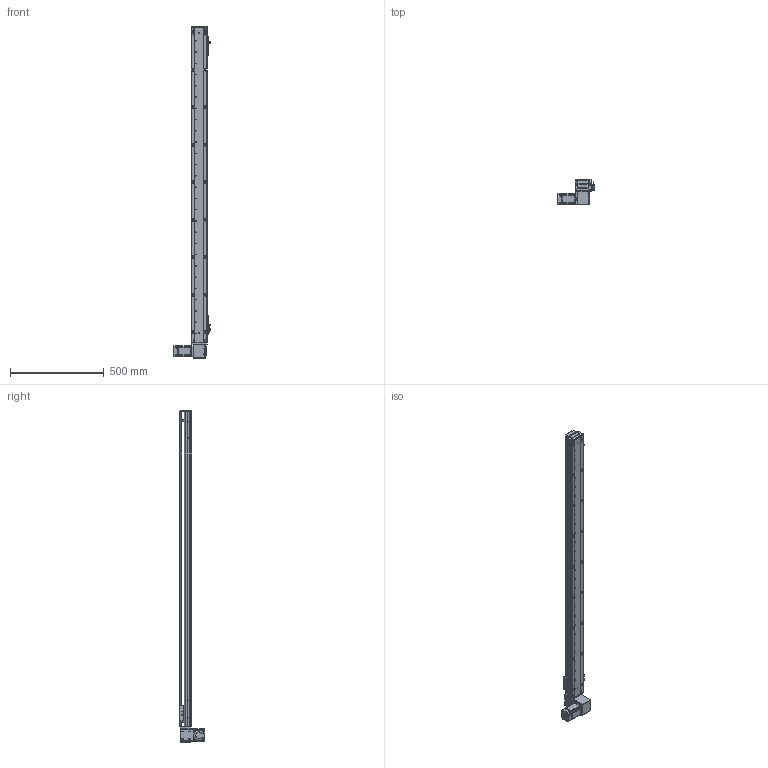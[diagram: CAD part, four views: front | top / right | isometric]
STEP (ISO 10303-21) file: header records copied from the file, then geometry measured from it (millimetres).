
FILE_DESCRIPTION (( 'STEP AP203' ), '1' );
FILE_NAME ('RY80-T-300-DL.SLDASM_1500.step', '2021-03-01T01:39:17', ( '盈信电脑' ), ( '东莞市道滘镇水果街19号' ), 'SwSTEP 2.0', 'SolidWorks 2012', '' );
FILE_SCHEMA (( 'CONFIG_CONTROL_DESIGN' ));
Length unit declared in the file: millimetre
Products named in the file (19): RY80-T-300-DL.SLDASM_1500; RY80-T-上下折同步轮盖板; RY80-T-M4蹟翐3; RY100-T粣創揤踡裔; RY80-T肮祭謫狟殏俋欶; 1; 滅袉蝶18-10; RY80-T翋肮祭謫裔啣; RY80-T萇儂假蚾啣; RY80-T肮祭湍揤輸1; RY80-T-翋肮祭謫釱; RY80-T肮祭湍揤輸2; 覜茼ん672; RY80俋离覜茼え; RY80-T綴裔啣; 672嫖萇羲壽假蚾釱; RY80-T-300-DL倰第菁釱_1500; RY80-T肮祭謫臏賑輸; RY80-T-300-DL倰第奻裔啣_1500
Assembly tree (24 placements, depth 2):
  RY80-T-300-DL.SLDASM_1500
    RY80-T-300-DL倰第菁釱_1500
    RY80-T肮祭謫臏賑輸
    RY80-T-300-DL倰第奻裔啣_1500
    RY80-T綴裔啣
    672嫖萇羲壽假蚾釱  x2
    覜茼ん672  x3
    RY80俋离覜茼え
    RY80-T-翋肮祭謫釱
    RY80-T肮祭湍揤輸1
    RY80-T肮祭湍揤輸2
    RY80-T萇儂假蚾啣
    RY80-T翋肮祭謫裔啣  x2
    滅袉蝶18-10  x2
    1
    RY80-T肮祭謫狟殏俋欶
    RY80-T-M4蹟翐3  x2
    RY80-T-上下折同步轮盖板
    RY100-T粣創揤踡裔
Bounding box: 198.7 x 134.5 x 1770 mm (x, y, z)
Volume: 2834479.2 mm3; surface area: 1213320.9 mm2
Topology: 24 solids, 24 shells, 2585 faces, 7147 edges, 4643 vertices
Faces by surface type: plane 1359, cylinder 1020, cone 150, bspline 56
Entity records: 82069 total; most frequent: CARTESIAN_POINT 20270, ORIENTED_EDGE 12738, DIRECTION 11918, EDGE_CURVE 6369, VERTEX_POINT 4184, AXIS2_PLACEMENT_3D 4036, VECTOR 3846, LINE 3846
